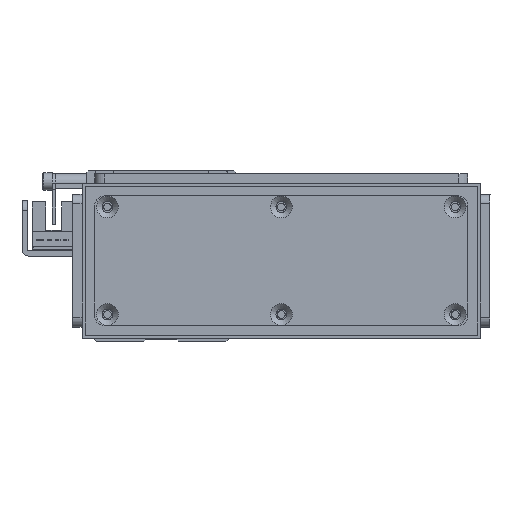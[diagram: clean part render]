
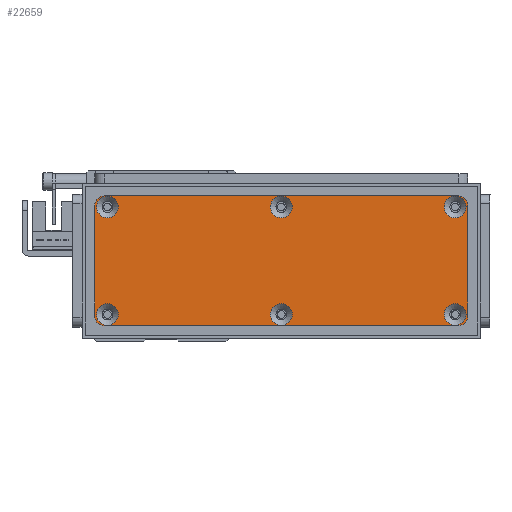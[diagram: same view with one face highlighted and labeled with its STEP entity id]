
A CAD part, front view. The second image highlights one B-rep face of the part: STEP entity #22659.
In plain terms, the highlighted planar face has unit normal (0, -1, 0) as drawn and (0, 0, 1) by its records, which use the part's own axes.
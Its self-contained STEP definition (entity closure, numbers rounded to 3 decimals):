
#765=FACE_BOUND('',#3844,.T.);
#766=FACE_BOUND('',#3845,.T.);
#767=FACE_BOUND('',#3846,.T.);
#768=FACE_BOUND('',#3847,.T.);
#769=FACE_BOUND('',#3848,.T.);
#770=FACE_BOUND('',#3849,.T.);
#1368=PLANE('',#25080);
#2387=FACE_OUTER_BOUND('',#3843,.T.);
#3843=EDGE_LOOP('',(#19220,#19221,#19222,#19223,#19224,#19225,#19226,#19227));
#3844=EDGE_LOOP('',(#19228));
#3845=EDGE_LOOP('',(#19229));
#3846=EDGE_LOOP('',(#19230));
#3847=EDGE_LOOP('',(#19231));
#3848=EDGE_LOOP('',(#19232));
#3849=EDGE_LOOP('',(#19233));
#5825=LINE('',#38041,#7960);
#5829=LINE('',#38053,#7964);
#5833=LINE('',#38065,#7968);
#5837=LINE('',#38075,#7972);
#7960=VECTOR('',#30193,10.);
#7964=VECTOR('',#30205,10.);
#7968=VECTOR('',#30217,10.);
#7972=VECTOR('',#30229,10.);
#9268=CIRCLE('',#25034,3.45);
#9271=CIRCLE('',#25039,3.45);
#9274=CIRCLE('',#25044,3.45);
#9277=CIRCLE('',#25049,3.45);
#9280=CIRCLE('',#25054,3.45);
#9283=CIRCLE('',#25059,3.45);
#9287=CIRCLE('',#25065,3.);
#9289=CIRCLE('',#25069,3.);
#9291=CIRCLE('',#25073,3.);
#9293=CIRCLE('',#25077,3.);
#11032=VERTEX_POINT('',#37969);
#11035=VERTEX_POINT('',#37979);
#11038=VERTEX_POINT('',#37989);
#11041=VERTEX_POINT('',#37999);
#11044=VERTEX_POINT('',#38009);
#11047=VERTEX_POINT('',#38019);
#11052=VERTEX_POINT('',#38032);
#11053=VERTEX_POINT('',#38034);
#11055=VERTEX_POINT('',#38040);
#11057=VERTEX_POINT('',#38046);
#11059=VERTEX_POINT('',#38052);
#11061=VERTEX_POINT('',#38058);
#11063=VERTEX_POINT('',#38064);
#11065=VERTEX_POINT('',#38070);
#13854=EDGE_CURVE('',#11032,#11032,#9268,.T.);
#13859=EDGE_CURVE('',#11035,#11035,#9271,.T.);
#13864=EDGE_CURVE('',#11038,#11038,#9274,.T.);
#13869=EDGE_CURVE('',#11041,#11041,#9277,.T.);
#13874=EDGE_CURVE('',#11044,#11044,#9280,.T.);
#13879=EDGE_CURVE('',#11047,#11047,#9283,.T.);
#13886=EDGE_CURVE('',#11053,#11052,#9287,.T.);
#13889=EDGE_CURVE('',#11055,#11053,#5825,.T.);
#13892=EDGE_CURVE('',#11057,#11055,#9289,.T.);
#13895=EDGE_CURVE('',#11059,#11057,#5829,.T.);
#13898=EDGE_CURVE('',#11061,#11059,#9291,.T.);
#13901=EDGE_CURVE('',#11063,#11061,#5833,.T.);
#13904=EDGE_CURVE('',#11065,#11063,#9293,.T.);
#13907=EDGE_CURVE('',#11052,#11065,#5837,.T.);
#19220=ORIENTED_EDGE('',*,*,#13907,.T.);
#19221=ORIENTED_EDGE('',*,*,#13904,.T.);
#19222=ORIENTED_EDGE('',*,*,#13901,.T.);
#19223=ORIENTED_EDGE('',*,*,#13898,.T.);
#19224=ORIENTED_EDGE('',*,*,#13895,.T.);
#19225=ORIENTED_EDGE('',*,*,#13892,.T.);
#19226=ORIENTED_EDGE('',*,*,#13889,.T.);
#19227=ORIENTED_EDGE('',*,*,#13886,.T.);
#19228=ORIENTED_EDGE('',*,*,#13854,.T.);
#19229=ORIENTED_EDGE('',*,*,#13859,.T.);
#19230=ORIENTED_EDGE('',*,*,#13864,.T.);
#19231=ORIENTED_EDGE('',*,*,#13869,.T.);
#19232=ORIENTED_EDGE('',*,*,#13874,.T.);
#19233=ORIENTED_EDGE('',*,*,#13879,.T.);
#22659=ADVANCED_FACE('',(#2387,#765,#766,#767,#768,#769,#770),#1368,.T.);
#25034=AXIS2_PLACEMENT_3D('',#37970,#30112,#30113);
#25039=AXIS2_PLACEMENT_3D('',#37980,#30124,#30125);
#25044=AXIS2_PLACEMENT_3D('',#37990,#30136,#30137);
#25049=AXIS2_PLACEMENT_3D('',#38000,#30148,#30149);
#25054=AXIS2_PLACEMENT_3D('',#38010,#30160,#30161);
#25059=AXIS2_PLACEMENT_3D('',#38020,#30172,#30173);
#25065=AXIS2_PLACEMENT_3D('',#38035,#30187,#30188);
#25069=AXIS2_PLACEMENT_3D('',#38047,#30199,#30200);
#25073=AXIS2_PLACEMENT_3D('',#38059,#30211,#30212);
#25077=AXIS2_PLACEMENT_3D('',#38071,#30223,#30224);
#25080=AXIS2_PLACEMENT_3D('',#38077,#30232,#30233);
#30112=DIRECTION('center_axis',(0.,0.,-1.));
#30113=DIRECTION('ref_axis',(1.,0.,0.));
#30124=DIRECTION('center_axis',(0.,0.,-1.));
#30125=DIRECTION('ref_axis',(1.,0.,0.));
#30136=DIRECTION('center_axis',(0.,0.,-1.));
#30137=DIRECTION('ref_axis',(1.,0.,0.));
#30148=DIRECTION('center_axis',(0.,0.,-1.));
#30149=DIRECTION('ref_axis',(1.,0.,0.));
#30160=DIRECTION('center_axis',(0.,0.,-1.));
#30161=DIRECTION('ref_axis',(1.,0.,0.));
#30172=DIRECTION('center_axis',(0.,0.,-1.));
#30173=DIRECTION('ref_axis',(1.,0.,0.));
#30187=DIRECTION('center_axis',(0.,0.,1.));
#30188=DIRECTION('ref_axis',(-1.,0.,0.));
#30193=DIRECTION('',(0.,1.,0.));
#30199=DIRECTION('center_axis',(0.,0.,1.));
#30200=DIRECTION('ref_axis',(0.,1.,0.));
#30205=DIRECTION('',(1.,0.,0.));
#30211=DIRECTION('center_axis',(0.,0.,1.));
#30212=DIRECTION('ref_axis',(1.,0.,0.));
#30217=DIRECTION('',(0.,-1.,0.));
#30223=DIRECTION('center_axis',(0.,0.,1.));
#30224=DIRECTION('ref_axis',(0.,-1.,0.));
#30229=DIRECTION('',(-1.,0.,0.));
#30232=DIRECTION('center_axis',(0.,0.,1.));
#30233=DIRECTION('ref_axis',(1.,0.,0.));
#37969=CARTESIAN_POINT('',(110.55,3.5,3.));
#37970=CARTESIAN_POINT('Origin',(114.,3.5,3.));
#37979=CARTESIAN_POINT('',(55.55,37.5,3.));
#37980=CARTESIAN_POINT('Origin',(59.,37.5,3.));
#37989=CARTESIAN_POINT('',(55.55,3.5,3.));
#37990=CARTESIAN_POINT('Origin',(59.,3.5,3.));
#37999=CARTESIAN_POINT('',(0.55,37.5,3.));
#38000=CARTESIAN_POINT('Origin',(4.,37.5,3.));
#38009=CARTESIAN_POINT('',(110.55,37.5,3.));
#38010=CARTESIAN_POINT('Origin',(114.,37.5,3.));
#38019=CARTESIAN_POINT('',(0.55,3.5,3.));
#38020=CARTESIAN_POINT('Origin',(4.,3.5,3.));
#38032=CARTESIAN_POINT('',(115.,41.,3.));
#38034=CARTESIAN_POINT('',(118.,38.,3.));
#38035=CARTESIAN_POINT('Origin',(115.,38.,3.));
#38040=CARTESIAN_POINT('',(118.,3.,3.));
#38041=CARTESIAN_POINT('',(118.,38.,3.));
#38046=CARTESIAN_POINT('',(115.,0.,3.));
#38047=CARTESIAN_POINT('Origin',(115.,3.,3.));
#38052=CARTESIAN_POINT('',(3.,0.,3.));
#38053=CARTESIAN_POINT('',(115.,0.,3.));
#38058=CARTESIAN_POINT('',(0.,3.,3.));
#38059=CARTESIAN_POINT('Origin',(3.,3.,3.));
#38064=CARTESIAN_POINT('',(0.,38.,3.));
#38065=CARTESIAN_POINT('',(0.,3.,3.));
#38070=CARTESIAN_POINT('',(3.,41.,3.));
#38071=CARTESIAN_POINT('Origin',(3.,38.,3.));
#38075=CARTESIAN_POINT('',(3.,41.,3.));
#38077=CARTESIAN_POINT('Origin',(59.,20.5,3.));
